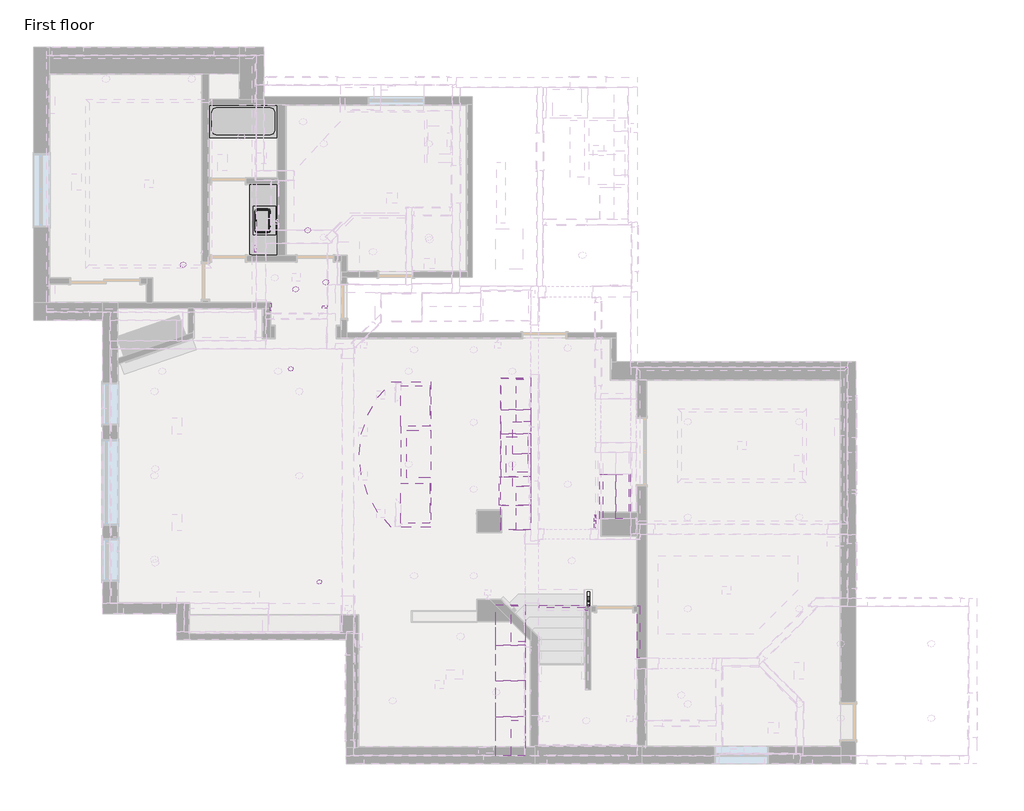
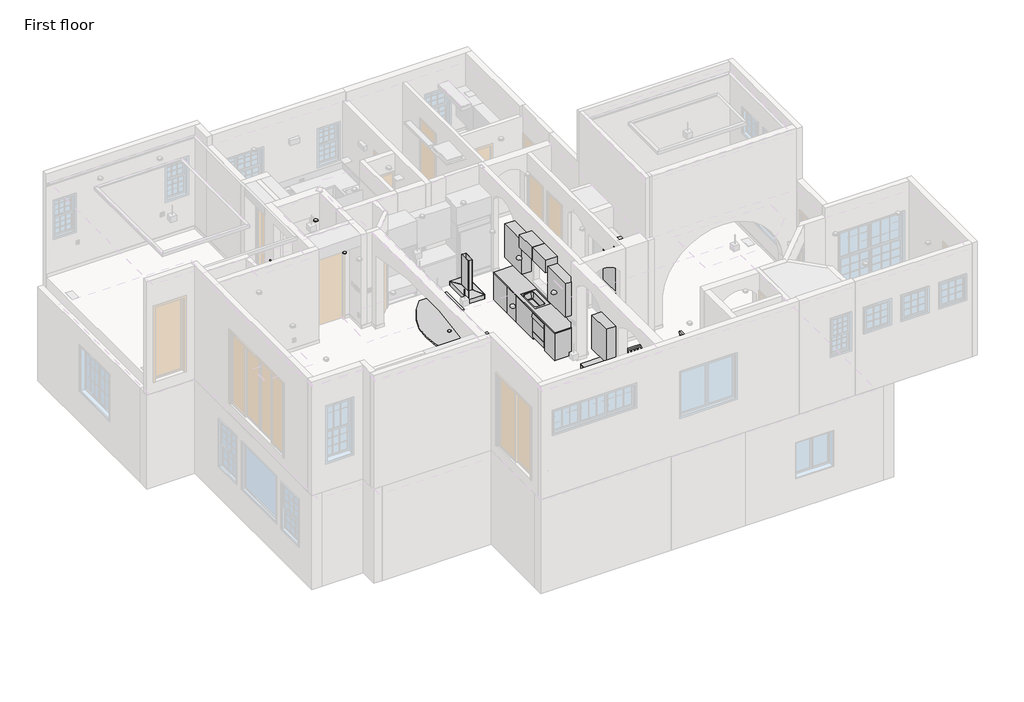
# One storey, part 11 of 14: 25 furniture elements, 14 proxies, 4 flow terminals, 3 railings.
"""IFC4 building model written with IfcOpenShell, lengths in millimetres."""

from ifc_helpers import new_model, si_unit, point, frame, frame_2d, origin, origin_with_axes, place, context, project, spatial, polyline, circle_curve, ellipse_curve, trimmed, segment, composite_curve, outline, extrude, faceted_brep, transform, mapped, element, save
from ifc_brep_helpers import plane_surface, cylinder_surface, revolved_surface, advanced_brep
from components import c_kitchen_hood_c_kitchen_hood_2_cbf3ad54, specialty_equipment_1_specialty_equipment_1_22bf80cc, specialty_equipment_1_specialty_equipment_1_149a46b1, specialty_equipment_1_specialty_equipment_1_f51d1b89, specialty_equipment_1_specialty_equipment_1_b0d764d4, specialty_equipment_1_specialty_equipment_1_d450ff97, specialty_equipment_1_specialty_equipment_1_6d52e2c9, specialty_equipment_1_specialty_equipment_1_1134e4f5, specialty_equipment_4_specialty_equipment_4_47f9b433, specialty_equipment_4_specialty_equipment_4_565449f1, c_bathtub_c_bathtub_2_3dac6746, flow_terminal_c128aac0, c_kitchen_sink_single_c_kitchen_sink_single_3_226f43ff, c_cabinet_module_double_door_c_cabinet_module_double_door_e2b38130, c_cabinet_module_double_door_c_cabinet_module_double_door_f6c91c58, c_cabinet_module_double_door_c_cabinet_module_double_door_7a8d8605, c_cabinet_module_double_door_c_cabinet_module_double_door_ce933aa9, c_cabinet_module_double_door_c_cabinet_module_double_door_18dcfad4, c_cabinet_module_double_door_c_cabinet_module_double_door_7b111447, c_cabinet_module_double_door_c_cabinet_module_double_door_6c25a611, c_cabinet_module_double_door_c_cabinet_module_double_door_e15ac9e6, c_cabinet_module_double_door_c_cabinet_module_double_door_cadfa840, c_cabinet_module_double_door_c_cabinet_module_double_door_635d7a1f, c_cabinet_module_double_door_c_cabinet_module_double_door_c4f58a1e, c_cabinet_single_module_c_cabinet_single_module_72188083, c_cabinet_single_module_c_cabinet_single_module_748682a7, c_casework_empty_c_casework_empty_a727a4a9, c_counter_top_linear_without_skirting_c_counter_top_linear_fa51e166, c_counter_top_curved_c_counter_top_curved_6a2d19db

model = new_model("IFC4")

# Units and contexts
model_context = context("Model", 3, world=origin())
ifc_project = project(units=[si_unit("LENGTHUNIT", "METRE", prefix="MILLI")], contexts=[model_context])

# Site, building, storey
site = spatial("IfcSite", under=ifc_project)
building = spatial("IfcBuilding", under=site)
storey = spatial("IfcBuildingStorey", under=building, Name="First floor", Elevation=0.0)

# Proxies
placement = place(None, origin())
c_kitchen_hood_c_kitchen_hood_2_shape = c_kitchen_hood_c_kitchen_hood_2_cbf3ad54(model_context)
element("IfcBuildingElementProxy", 1, Name="C_Kitchen Hood : C_Kitchen Hood 2", ObjectType="C_Kitchen Hood : C_Kitchen Hood 2", at=placement, inside=storey, context=model_context, shape_type="MappedRepresentation", body=[
    mapped(c_kitchen_hood_c_kitchen_hood_2_shape, transform((1552.2031284, 6600.8036682, 5130.8), x_axis=(0.0, 1.0, 0.0), y_axis=(-1.0, 0.0, 0.0), z_axis=(0.0, 0.0, 1.0))),
])
specialty_equipment_1_specialty_equipment_1_shape = specialty_equipment_1_specialty_equipment_1_22bf80cc(model_context)
element("IfcBuildingElementProxy", 2, Name="Specialty Equipment 1 : Specialty Equipment 1", ObjectType="Specialty Equipment 1 : Specialty Equipment 1", at=placement, inside=storey, context=model_context, shape_type="MappedRepresentation", body=[
    mapped(specialty_equipment_1_specialty_equipment_1_shape, transform((0.0, 0.0, 0.0), x_axis=(1.0, 0.0, 0.0), y_axis=(0.0, 1.0, 0.0), z_axis=(0.0, 0.0, 1.0))),
])
specialty_equipment_1_specialty_equipment_1_2_shape = specialty_equipment_1_specialty_equipment_1_149a46b1(model_context)
element("IfcBuildingElementProxy", 3, Name="Specialty Equipment_1 : Specialty Equipment_1", ObjectType="Specialty Equipment_1 : Specialty Equipment_1", at=placement, inside=storey, context=model_context, shape_type="MappedRepresentation", body=[
    mapped(specialty_equipment_1_specialty_equipment_1_2_shape, transform((-1625.6, 9740.9, 1295.4), x_axis=(0.0, 1.0, 0.0), y_axis=(-1.0, 0.0, 0.0), z_axis=(0.0, 0.0, 1.0))),
])
specialty_equipment_1_specialty_equipment_1_3_shape = specialty_equipment_1_specialty_equipment_1_f51d1b89(model_context)
element("IfcBuildingElementProxy", 4, Name="Specialty Equipment_1 : Specialty Equipment_1", ObjectType="Specialty Equipment_1 : Specialty Equipment_1", at=placement, inside=storey, context=model_context, shape_type="MappedRepresentation", body=[
    mapped(specialty_equipment_1_specialty_equipment_1_3_shape, transform((-508.0, 9740.9, 2552.7), x_axis=(0.0, 1.0, 0.0), y_axis=(-1.0, 0.0, 0.0), z_axis=(0.0, 0.0, 1.0))),
])
specialty_equipment_1_specialty_equipment_1_4_shape = specialty_equipment_1_specialty_equipment_1_b0d764d4(model_context)
element("IfcBuildingElementProxy", 5, Name="Specialty Equipment_1 : Specialty Equipment_1", ObjectType="Specialty Equipment_1 : Specialty Equipment_1", at=placement, inside=storey, context=model_context, shape_type="MappedRepresentation", body=[
    mapped(specialty_equipment_1_specialty_equipment_1_4_shape, transform((5295.9, 5111.6447939, 4521.2), x_axis=(0.0, 1.0, 0.0), y_axis=(-1.0, 0.0, 0.0), z_axis=(0.0, 0.0, 1.0))),
])
specialty_equipment_1_specialty_equipment_1_5_shape = specialty_equipment_1_specialty_equipment_1_d450ff97(model_context)
element("IfcBuildingElementProxy", 6, Name="Specialty Equipment_1 : Specialty Equipment_1", ObjectType="Specialty Equipment_1 : Specialty Equipment_1", at=placement, inside=storey, context=model_context, shape_type="MappedRepresentation", body=[
    mapped(specialty_equipment_1_specialty_equipment_1_5_shape, transform((5295.9, 5232.2947939, 5816.6), x_axis=(0.0, 1.0, 0.0), y_axis=(-1.0, 0.0, 0.0), z_axis=(0.0, 0.0, 1.0))),
])
specialty_equipment_1_specialty_equipment_1_6_shape = specialty_equipment_1_specialty_equipment_1_6d52e2c9(model_context)
element("IfcBuildingElementProxy", 7, Name="Specialty Equipment_1 : Specialty Equipment_1", ObjectType="Specialty Equipment_1 : Specialty Equipment_1", at=placement, inside=storey, context=model_context, shape_type="MappedRepresentation", body=[
    mapped(specialty_equipment_1_specialty_equipment_1_6_shape, transform((5308.6, 5283.0947939, 6019.8), x_axis=(0.0, 1.0, 0.0), y_axis=(-1.0, 0.0, 0.0), z_axis=(0.0, 0.0, 1.0))),
])
specialty_equipment_1_specialty_equipment_1_7_shape = specialty_equipment_1_specialty_equipment_1_1134e4f5(model_context)
element("IfcBuildingElementProxy", 8, Name="Specialty Equipment_1 : Specialty Equipment_1", ObjectType="Specialty Equipment_1 : Specialty Equipment_1", at=placement, inside=storey, context=model_context, shape_type="MappedRepresentation", body=[
    mapped(specialty_equipment_1_specialty_equipment_1_7_shape, transform((-1949.45, 10985.5, 4572.0), x_axis=(0.0, 1.0, 0.0), y_axis=(-1.0, 0.0, 0.0), z_axis=(0.0, 0.0, 1.0))),
])
specialty_equipment_4_specialty_equipment_4_shape = specialty_equipment_4_specialty_equipment_4_47f9b433(model_context)
element("IfcBuildingElementProxy", 9, Name="Specialty Equipment_4 : Specialty Equipment_4", ObjectType="Specialty Equipment_4 : Specialty Equipment_4", at=placement, inside=storey, context=model_context, shape_type="MappedRepresentation", body=[
    mapped(specialty_equipment_4_specialty_equipment_4_shape, transform((-431.8, 10267.95, 2565.4), x_axis=(1.0, 0.0, 0.0), y_axis=(0.0, 1.0, 0.0), z_axis=(0.0, 0.0, 1.0))),
])
element("IfcBuildingElementProxy", 10, Name="Specialty Equipment_4 : Specialty Equipment_4", ObjectType="Specialty Equipment_4 : Specialty Equipment_4", at=placement, inside=storey, context=model_context, shape_type="MappedRepresentation", body=[
    mapped(specialty_equipment_4_specialty_equipment_4_shape, transform((-3479.8, 10642.6, 2565.4), x_axis=(1.0, 0.0, 0.0), y_axis=(0.0, 1.0, 0.0), z_axis=(0.0, 0.0, 1.0))),
])
element("IfcBuildingElementProxy", 11, Name="Specialty Equipment_4 : Specialty Equipment_4", ObjectType="Specialty Equipment_4 : Specialty Equipment_4", at=placement, inside=storey, context=model_context, shape_type="MappedRepresentation", body=[
    mapped(specialty_equipment_4_specialty_equipment_4_shape, transform((-819.15, 11379.2, 2565.4), x_axis=(1.0, 0.0, 0.0), y_axis=(0.0, 1.0, 0.0), z_axis=(0.0, 0.0, 1.0))),
])
element("IfcBuildingElementProxy", 12, Name="Specialty Equipment_4 : Specialty Equipment_4", ObjectType="Specialty Equipment_4 : Specialty Equipment_4", at=placement, inside=storey, context=model_context, shape_type="MappedRepresentation", body=[
    mapped(specialty_equipment_4_specialty_equipment_4_shape, transform((-1079.5, 10121.9, 6248.4), x_axis=(1.0, 0.0, 0.0), y_axis=(0.0, 1.0, 0.0), z_axis=(0.0, 0.0, 1.0))),
])
specialty_equipment_4_specialty_equipment_4_2_shape = specialty_equipment_4_specialty_equipment_4_565449f1(model_context)
element("IfcBuildingElementProxy", 13, Name="Specialty Equipment_4 : Specialty Equipment_4", ObjectType="Specialty Equipment_4 : Specialty Equipment_4", at=placement, inside=storey, context=model_context, shape_type="MappedRepresentation", body=[
    mapped(specialty_equipment_4_specialty_equipment_4_2_shape, transform((-571.5, 3873.5, 6261.1), x_axis=(1.0, 0.0, 0.0), y_axis=(0.0, 1.0, 0.0), z_axis=(0.0, 0.0, 1.0))),
])
element("IfcBuildingElementProxy", 14, Name="Specialty Equipment_4 : Specialty Equipment_4", ObjectType="Specialty Equipment_4 : Specialty Equipment_4", at=placement, inside=storey, context=model_context, shape_type="MappedRepresentation", body=[
    mapped(specialty_equipment_4_specialty_equipment_4_2_shape, transform((-1181.1, 8420.1, 6261.1), x_axis=(1.0, 0.0, 0.0), y_axis=(0.0, 1.0, 0.0), z_axis=(0.0, 0.0, 1.0))),
])

# Flow terminals
c_bathtub_c_bathtub_2_shape = c_bathtub_c_bathtub_2_3dac6746(model_context)
element("IfcFlowTerminal", 15, ObjectType="C_Bathtub : C_Bathtub 2", at=placement, inside=storey, context=model_context, shape_type="MappedRepresentation", body=[
    mapped(c_bathtub_c_bathtub_2_shape, transform((-1473.2, 13347.7, 0.0), x_axis=(0.0, 1.0, 0.0), y_axis=(-1.0, 0.0, 0.0), z_axis=(0.0, 0.0, 1.0))),
])
flow_terminal_shape = flow_terminal_c128aac0(model_context)
element("IfcFlowTerminal", 16, ObjectType="C_Dishwasher : 24\"x25 1/4\"", at=placement, inside=storey, context=model_context, shape_type="MappedRepresentation", body=[
    mapped(flow_terminal_shape, transform((3937.0, 5818.0822939, 3251.2), x_axis=(-1.0, 0.0, 0.0), y_axis=(0.0, -1.0, 0.0), z_axis=(0.0, 0.0, 1.0))),
])
element("IfcFlowTerminal", 17, ObjectType="C_Kitchen Sink Single : C_Kitchen Sink Single", at=placement, inside=storey, context=model_context, shape_type="SolidModel", body=[
    extrude(outline(polyline([(-1504.95, 11893.55), (-1504.95, 11283.95), (-1987.55, 11283.95), (-1987.55, 11893.55), (-1504.95, 11893.55)]), holes=[composite_curve([segment(trimmed(circle_curve(frame_2d((-1670.05, 11785.6)), 50.8), [point((-1619.25, 11785.6))], [point((-1670.05, 11836.4))], True, "CARTESIAN"), True, "CONTINUOUS"), segment(polyline([(-1670.05, 11836.4), (-1898.65, 11836.4)]), True, "CONTINUOUS"), segment(trimmed(circle_curve(frame_2d((-1898.65, 11785.6)), 50.8), [point((-1898.65, 11836.4))], [point((-1949.45, 11785.6))], True, "CARTESIAN"), True, "CONTINUOUS"), segment(polyline([(-1949.45, 11785.6), (-1949.45, 11372.85)]), True, "CONTINUOUS"), segment(trimmed(circle_curve(frame_2d((-1898.65, 11372.85)), 50.8), [point((-1949.45, 11372.85))], [point((-1898.65, 11322.05))], True, "CARTESIAN"), True, "CONTINUOUS"), segment(polyline([(-1898.65, 11322.05), (-1670.05, 11322.05)]), True, "CONTINUOUS"), segment(trimmed(circle_curve(frame_2d((-1670.05, 11372.85)), 50.8), [point((-1670.05, 11322.05))], [point((-1619.25, 11372.85))], True, "CARTESIAN"), True, "CONTINUOUS"), segment(polyline([(-1619.25, 11372.85), (-1619.25, 11785.6)]), True, "CONTINUOUS")], self_intersect=False)]), frame((0.0, 0.0, 825.5), z_axis=(0.0, 0.0, 1.0), x_axis=(1.0, 0.0, 0.0)), (0.0, 0.0, 1.0), 12.7),
    advanced_brep(
    [(-1670.05, 11800.8884182, 619.125), (-1898.65, 11800.8884182, 619.125), (-1913.9384182, 11785.6, 619.125), (-1913.9384182, 11372.85, 619.125), (-1898.65, 11357.5615818, 619.125), (-1670.05, 11357.5615818, 619.125), (-1654.7615818, 11372.85, 619.125), (-1654.7615818, 11785.6, 619.125), (-1670.05, 11315.7, 609.6), (-1898.65, 11315.7, 609.6), (-1955.8, 11372.85, 609.6), (-1955.8, 11785.6, 609.6), (-1898.65, 11842.75, 609.6), (-1670.05, 11842.75, 609.6), (-1612.9, 11785.6, 609.6), (-1612.9, 11372.85, 609.6), (-1670.05, 11842.75, 825.5), (-1612.9, 11785.6, 825.5), (-1635.7840728, 11785.6, 636.5146831), (-1670.05, 11819.8659272, 636.5146831), (-1619.25, 11785.6, 825.5), (-1670.05, 11836.4, 825.5), (-1898.65, 11842.75, 825.5), (-1898.65, 11819.8659272, 636.5146831), (-1898.65, 11836.4, 825.5), (-1955.8, 11785.6, 825.5), (-1932.9159272, 11785.6, 636.5146831), (-1949.45, 11785.6, 825.5), (-1955.8, 11372.85, 825.5), (-1932.9159272, 11372.85, 636.5146831), (-1949.45, 11372.85, 825.5), (-1898.65, 11315.7, 825.5), (-1898.65, 11338.5840728, 636.5146831), (-1898.65, 11322.05, 825.5), (-1670.05, 11315.7, 825.5), (-1670.05, 11338.5840728, 636.5146831), (-1670.05, 11322.05, 825.5), (-1612.9, 11372.85, 825.5), (-1635.7840728, 11372.85, 636.5146831), (-1619.25, 11372.85, 825.5)],
    [
        (0, 1),
        (1, 2, circle_curve(frame((-1898.65, 11785.6, 619.125), z_axis=(0.0, 0.0, 1.0), x_axis=(0.0, 1.0, 0.0)), 15.2884182)),
        (2, 3),
        (3, 4, circle_curve(frame((-1898.65, 11372.85, 619.125), z_axis=(0.0, 0.0, 1.0), x_axis=(-1.0, 0.0, 0.0)), 15.2884182)),
        (4, 5),
        (5, 6, circle_curve(frame((-1670.05, 11372.85, 619.125), z_axis=(0.0, 0.0, 1.0), x_axis=(0.0, -1.0, 0.0)), 15.2884182)),
        (6, 7),
        (7, 0, circle_curve(frame((-1670.05, 11785.6, 619.125), z_axis=(0.0, 0.0, 1.0), x_axis=(1.0, 0.0, 0.0)), 15.2884182)),
        (8, 9),
        (9, 10, circle_curve(frame((-1898.65, 11372.85, 609.6), z_axis=(0.0, 0.0, -1.0), x_axis=(-1.0, 0.0, 0.0)), 57.15)),
        (10, 11),
        (11, 12, circle_curve(frame((-1898.65, 11785.6, 609.6), z_axis=(0.0, 0.0, -1.0), x_axis=(0.0, 1.0, 0.0)), 57.15)),
        (12, 13),
        (13, 14, circle_curve(frame((-1670.05, 11785.6, 609.6), z_axis=(0.0, 0.0, -1.0), x_axis=(1.0, 0.0, 0.0)), 57.15)),
        (14, 15),
        (15, 8, circle_curve(frame((-1670.05, 11372.85, 609.6), z_axis=(0.0, 0.0, -1.0), x_axis=(0.0, -1.0, 0.0)), 57.15)),
        (13, 16),
        (16, 17, circle_curve(frame((-1670.05, 11785.6, 825.5), z_axis=(0.0, 0.0, -1.0), x_axis=(1.0, 0.0, 0.0)), 57.15)),
        (17, 14),
        (7, 18, circle_curve(frame((-1654.7615818, 11785.6, 638.175), z_axis=(0.0, -1.0, 0.0), x_axis=(1.0, 0.0, 0.0)), 19.05)),
        (18, 19, circle_curve(frame((-1670.05, 11785.6, 636.5146831), z_axis=(0.0, 0.0, 1.0), x_axis=(1.0, 0.0, 0.0)), 34.2659272)),
        (19, 0, circle_curve(frame((-1670.05, 11800.8884182, 638.175), z_axis=(-1.0, 0.0, 0.0), x_axis=(0.0, 1.0, 0.0)), 19.05)),
        (18, 20),
        (20, 21, circle_curve(frame((-1670.05, 11785.6, 825.5), z_axis=(0.0, 0.0, 1.0), x_axis=(1.0, 0.0, 0.0)), 50.8)),
        (21, 19),
        (16, 21),
        (20, 17),
        (12, 22),
        (22, 16),
        (19, 23),
        (23, 1, circle_curve(frame((-1898.65, 11800.8884182, 638.175), z_axis=(-1.0, 0.0, 0.0), x_axis=(0.0, 1.0, 0.0)), 19.05)),
        (21, 24),
        (24, 23),
        (22, 24),
        (11, 25),
        (25, 22, circle_curve(frame((-1898.65, 11785.6, 825.5), z_axis=(0.0, 0.0, -1.0), x_axis=(0.0, 1.0, 0.0)), 57.15)),
        (23, 26, circle_curve(frame((-1898.65, 11785.6, 636.5146831), z_axis=(0.0, 0.0, 1.0), x_axis=(0.0, 1.0, 0.0)), 34.2659272)),
        (26, 2, circle_curve(frame((-1913.9384182, 11785.6, 638.175), z_axis=(0.0, -1.0, 0.0), x_axis=(-1.0, 0.0, 0.0)), 19.05)),
        (24, 27, circle_curve(frame((-1898.65, 11785.6, 825.5), z_axis=(0.0, 0.0, 1.0), x_axis=(0.0, 1.0, 0.0)), 50.8)),
        (27, 26),
        (25, 27),
        (10, 28),
        (28, 25),
        (26, 29),
        (29, 3, circle_curve(frame((-1913.9384182, 11372.85, 638.175), z_axis=(0.0, -1.0, 0.0), x_axis=(-1.0, 0.0, 0.0)), 19.05)),
        (27, 30),
        (30, 29),
        (28, 30),
        (9, 31),
        (31, 28, circle_curve(frame((-1898.65, 11372.85, 825.5), z_axis=(0.0, 0.0, -1.0), x_axis=(-1.0, 0.0, 0.0)), 57.15)),
        (29, 32, circle_curve(frame((-1898.65, 11372.85, 636.5146831), z_axis=(0.0, 0.0, 1.0), x_axis=(-1.0, 0.0, 0.0)), 34.2659272)),
        (32, 4, circle_curve(frame((-1898.65, 11357.5615818, 638.175), z_axis=(1.0, 0.0, 0.0), x_axis=(0.0, -1.0, 0.0)), 19.05)),
        (30, 33, circle_curve(frame((-1898.65, 11372.85, 825.5), z_axis=(0.0, 0.0, 1.0), x_axis=(-1.0, 0.0, 0.0)), 50.8)),
        (33, 32),
        (31, 33),
        (8, 34),
        (34, 31),
        (32, 35),
        (35, 5, circle_curve(frame((-1670.05, 11357.5615818, 638.175), z_axis=(1.0, 0.0, 0.0), x_axis=(0.0, -1.0, 0.0)), 19.05)),
        (33, 36),
        (36, 35),
        (34, 36),
        (15, 37),
        (37, 34, circle_curve(frame((-1670.05, 11372.85, 825.5), z_axis=(0.0, 0.0, -1.0), x_axis=(0.0, -1.0, 0.0)), 57.15)),
        (35, 38, circle_curve(frame((-1670.05, 11372.85, 636.5146831), z_axis=(0.0, 0.0, 1.0), x_axis=(0.0, -1.0, 0.0)), 34.2659272)),
        (38, 6, circle_curve(frame((-1654.7615818, 11372.85, 638.175), z_axis=(0.0, 1.0, 0.0), x_axis=(1.0, 0.0, 0.0)), 19.05)),
        (36, 39, circle_curve(frame((-1670.05, 11372.85, 825.5), z_axis=(0.0, 0.0, 1.0), x_axis=(0.0, -1.0, 0.0)), 50.8)),
        (39, 38),
        (37, 39),
        (17, 37),
        (38, 18),
        (39, 20),
    ],
    [
        plane_surface(frame((-1657.35, 11372.85, 619.125), z_axis=(0.0, 0.0, 1.0), x_axis=(0.0, -1.0, 0.0))),
        plane_surface(frame((-1657.35, 11372.85, 609.6), z_axis=(0.0, 0.0, -1.0), x_axis=(0.0, 1.0, 0.0))),
        cylinder_surface(frame((-1670.05, 11785.6, 825.5), z_axis=(0.0, 0.0, -1.0), x_axis=(1.0, 0.0, 0.0)), 57.15),
        revolved_surface(trimmed(ellipse_curve(frame((-1654.7615818, 11785.6, 638.175), z_axis=(0.0, -1.0, 0.0), x_axis=(1.0, 0.0, 0.0)), 19.05, 19.05), [point((-1654.7615818, 11785.6, 619.125))], [point((-1635.7840728, 11785.6, 636.5146831))], True, "CARTESIAN"), (-1670.05, 11785.6, 825.5), (0.0, 0.0, -1.0)),
        revolved_surface(polyline([(-1635.7840728, 11785.6, 636.5146831), (-1619.25, 11785.6, 825.5)]), (-1670.05, 11785.6, 825.5), (0.0, 0.0, -1.0)),
        plane_surface(frame((-1670.05, 11785.6, 825.5), z_axis=(0.0, 0.0, 1.0), x_axis=(1.0, 0.0, 0.0))),
        plane_surface(frame((-1670.05, 11842.75, 825.5), z_axis=(0.0, 1.0, 0.0), x_axis=(-1.0, 0.0, 0.0))),
        revolved_surface(polyline([(-1898.65, 11819.9384182, 638.175), (-1670.05, 11819.9384182, 638.175)]), (-1670.05, 11800.8884182, 638.175), (-1.0, 0.0, 0.0)),
        plane_surface(frame((-1670.05, 11819.8659272, 636.5146831), z_axis=(0.0, -0.996194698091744, 0.08715574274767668), x_axis=(-1.0, 0.0, 0.0))),
        plane_surface(frame((-1670.05, 11836.4, 825.5), z_axis=(0.0, 0.0, 1.0), x_axis=(-1.0, 0.0, 0.0))),
        cylinder_surface(frame((-1898.65, 11785.6, 825.5), z_axis=(0.0, 0.0, -1.0), x_axis=(0.0, 1.0, 0.0)), 57.15),
        revolved_surface(trimmed(ellipse_curve(frame((-1898.65, 11800.8884182, 638.175), z_axis=(1.0, 0.0, 0.0), x_axis=(0.0, 1.0, 0.0)), 19.05, 19.05), [point((-1898.65, 11800.8884182, 619.125))], [point((-1898.65, 11819.8659272, 636.5146831))], True, "CARTESIAN"), (-1898.65, 11785.6, 825.5), (0.0, 0.0, -1.0)),
        revolved_surface(polyline([(-1898.65, 11819.8659272, 636.5146831), (-1898.65, 11836.4, 825.5)]), (-1898.65, 11785.6, 825.5), (0.0, 0.0, -1.0)),
        plane_surface(frame((-1898.65, 11785.6, 825.5), z_axis=(0.0, 0.0, 1.0), x_axis=(0.0, 1.0, 0.0))),
        plane_surface(frame((-1955.8, 11785.6, 825.5), z_axis=(-1.0, 0.0, 0.0), x_axis=(0.0, -1.0, 0.0))),
        revolved_surface(polyline([(-1932.9884181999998, 11372.85, 638.175), (-1932.9884181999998, 11785.6, 638.175)]), (-1913.9384182, 11785.6, 638.175), (0.0, -1.0, 0.0)),
        plane_surface(frame((-1932.9159272, 11785.6, 636.5146831), z_axis=(0.996194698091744, 0.0, 0.08715574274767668), x_axis=(0.0, -1.0, 0.0))),
        plane_surface(frame((-1949.45, 11785.6, 825.5), z_axis=(0.0, 0.0, 1.0), x_axis=(0.0, -1.0, 0.0))),
        cylinder_surface(frame((-1898.65, 11372.85, 825.5), z_axis=(0.0, 0.0, -1.0), x_axis=(-1.0, 0.0, 0.0)), 57.15),
        revolved_surface(trimmed(ellipse_curve(frame((-1913.9384182, 11372.85, 638.175), z_axis=(0.0, 1.0, 0.0), x_axis=(-1.0, 0.0, 0.0)), 19.05, 19.05), [point((-1913.9384182, 11372.85, 619.125))], [point((-1932.9159272, 11372.85, 636.5146831))], True, "CARTESIAN"), (-1898.65, 11372.85, 825.5), (0.0, 0.0, -1.0)),
        revolved_surface(polyline([(-1932.9159272, 11372.85, 636.5146831), (-1949.45, 11372.85, 825.5)]), (-1898.65, 11372.85, 825.5), (0.0, 0.0, -1.0)),
        plane_surface(frame((-1898.65, 11372.85, 825.5), z_axis=(0.0, 0.0, 1.0), x_axis=(-1.0, 0.0, 0.0))),
        plane_surface(frame((-1898.65, 11315.7, 825.5), z_axis=(0.0, -1.0, 0.0), x_axis=(1.0, 0.0, 0.0))),
        revolved_surface(polyline([(-1670.05, 11338.511581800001, 638.175), (-1898.65, 11338.511581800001, 638.175)]), (-1898.65, 11357.5615818, 638.175), (1.0, 0.0, 0.0)),
        plane_surface(frame((-1898.65, 11338.5840728, 636.5146831), z_axis=(0.0, 0.996194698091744, 0.08715574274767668), x_axis=(1.0, 0.0, 0.0))),
        plane_surface(frame((-1898.65, 11322.05, 825.5), z_axis=(0.0, 0.0, 1.0), x_axis=(1.0, 0.0, 0.0))),
        cylinder_surface(frame((-1670.05, 11372.85, 825.5), z_axis=(0.0, 0.0, -1.0), x_axis=(0.0, -1.0, 0.0)), 57.15),
        revolved_surface(trimmed(ellipse_curve(frame((-1670.05, 11357.5615818, 638.175), z_axis=(-1.0, 0.0, 0.0), x_axis=(0.0, -1.0, 0.0)), 19.05, 19.05), [point((-1670.05, 11357.5615818, 619.125))], [point((-1670.05, 11338.5840728, 636.5146831))], True, "CARTESIAN"), (-1670.05, 11372.85, 825.5), (0.0, 0.0, -1.0)),
        revolved_surface(polyline([(-1670.05, 11338.5840728, 636.5146831), (-1670.05, 11322.05, 825.5)]), (-1670.05, 11372.85, 825.5), (0.0, 0.0, -1.0)),
        plane_surface(frame((-1670.05, 11372.85, 825.5), z_axis=(0.0, 0.0, 1.0), x_axis=(0.0, -1.0, 0.0))),
        plane_surface(frame((-1612.9, 11372.85, 825.5), z_axis=(1.0, 0.0, 0.0), x_axis=(0.0, 1.0, 0.0))),
        revolved_surface(polyline([(-1635.7115818, 11785.6, 638.175), (-1635.7115818, 11372.85, 638.175)]), (-1654.7615818, 11372.85, 638.175), (0.0, 1.0, 0.0)),
        plane_surface(frame((-1635.7840728, 11372.85, 636.5146831), z_axis=(-0.996194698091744, 0.0, 0.08715574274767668), x_axis=(0.0, 1.0, 0.0))),
        plane_surface(frame((-1619.25, 11372.85, 825.5), z_axis=(0.0, 0.0, 1.0), x_axis=(0.0, 1.0, 0.0))),
    ],
    [
        (0, [[1, 2, 3, 4, 5, 6, 7, 8]]),
        (1, [[9, 10, 11, 12, 13, 14, 15, 16]]),
        (2, [[17, 18, 19, -14]]),
        (3, [[20, 21, 22, -8]]),
        (4, [[23, 24, 25, -21]]),
        (5, [[26, -24, 27, -18]]),
        (6, [[-13, 28, 29, -17]]),
        (7, [[30, 31, -1, -22]]),
        (8, [[32, 33, -30, -25]]),
        (9, [[-29, 34, -32, -26]]),
        (10, [[-12, 35, 36, -28]]),
        (11, [[37, 38, -2, -31]]),
        (12, [[39, 40, -37, -33]]),
        (13, [[-36, 41, -39, -34]]),
        (14, [[-11, 42, 43, -35]]),
        (15, [[44, 45, -3, -38]]),
        (16, [[46, 47, -44, -40]]),
        (17, [[-43, 48, -46, -41]]),
        (18, [[-10, 49, 50, -42]]),
        (19, [[51, 52, -4, -45]]),
        (20, [[53, 54, -51, -47]]),
        (21, [[-50, 55, -53, -48]]),
        (22, [[-9, 56, 57, -49]]),
        (23, [[58, 59, -5, -52]]),
        (24, [[60, 61, -58, -54]]),
        (25, [[-57, 62, -60, -55]]),
        (26, [[-16, 63, 64, -56]]),
        (27, [[65, 66, -6, -59]]),
        (28, [[67, 68, -65, -61]]),
        (29, [[-64, 69, -67, -62]]),
        (30, [[70, -63, -15, -19]]),
        (31, [[-7, -66, 71, -20]]),
        (32, [[-71, -68, 72, -23]]),
        (33, [[-72, -69, -70, -27]]),
    ],
),
])
c_kitchen_sink_single_c_kitchen_sink_single_3_shape = c_kitchen_sink_single_c_kitchen_sink_single_3_226f43ff(model_context)
element("IfcFlowTerminal", 18, ObjectType="C_Kitchen Sink Single : C_Kitchen Sink Single 3", at=placement, inside=storey, context=model_context, shape_type="MappedRepresentation", body=[
    mapped(c_kitchen_sink_single_c_kitchen_sink_single_3_shape, transform((3642.5545989, 6263.9840344, 4152.9), x_axis=(0.0, -1.0, 0.0), y_axis=(1.0, 0.0, 0.0), z_axis=(0.0, 0.0, 1.0))),
])

# Furniture
element("IfcFurniture", 19, ObjectType="C_Cabinet Module Double Door : C_Cabinet Module Double Door", at=placement, inside=storey, context=model_context, shape_type="Brep", body=[
    faceted_brep([(3937.0, 7035.6947939, 4127.5), (3308.35, 7035.6947939, 4127.5), (3308.35, 6122.8822939, 4127.5), (3937.0, 6122.8822939, 4127.5), (3416.3, 6210.1947939, 4127.5), (3416.3, 6972.1947939, 4127.5), (3873.5, 6972.1947939, 4127.5), (3873.5, 6210.1947939, 4127.5), (3937.0, 7035.6947939, 3251.2), (3937.0, 6122.8822939, 3251.2), (3308.35, 6122.8822939, 3251.2), (3308.35, 7035.6947939, 3251.2), (3416.3, 6210.1947939, 3937.0), (3873.5, 6210.1947939, 3937.0), (3873.5, 6972.1947939, 3937.0), (3416.3, 6972.1947939, 3937.0)], [[[0, 1, 2, 3], [4, 5, 6, 7]], [[8, 9, 10, 11]], [[0, 3, 9, 8]], [[3, 2, 10, 9]], [[2, 1, 11, 10]], [[1, 0, 8, 11]], [[12, 13, 14, 15]], [[12, 15, 5, 4]], [[15, 14, 6, 5]], [[14, 13, 7, 6]], [[13, 12, 4, 7]]]),
])
element("IfcFurniture", 20, ObjectType="C_Cabinet Module Double Door : C_Cabinet Module Double Door", at=placement, inside=storey, context=model_context, shape_type="Brep", body=[
    faceted_brep([(-2057.4, 11836.4, 800.1), (-2057.4, 10833.1, 800.1), (-1460.5, 10833.1, 800.1), (-1460.5, 11836.4, 800.1), (-1504.95, 11836.4, 800.1), (-1504.95, 11283.95, 800.1), (-1987.55, 11283.95, 800.1), (-1987.55, 11836.4, 800.1), (-1460.5, 11836.4, 0.0), (-1460.5, 10833.1, 0.0), (-2057.4, 10833.1, 0.0), (-2057.4, 11836.4, 0.0), (-1987.55, 11836.4, 609.6), (-1504.95, 11836.4, 609.6), (-1987.55, 11283.95, 609.6), (-1504.95, 11283.95, 609.6)], [[[0, 1, 2, 3, 4, 5, 6, 7]], [[8, 9, 10, 11]], [[3, 2, 9, 8]], [[2, 1, 10, 9]], [[1, 0, 11, 10]], [[8, 11, 0, 7, 12, 13, 4, 3]], [[14, 15, 13, 12]], [[14, 12, 7, 6]], [[15, 14, 6, 5]], [[13, 15, 5, 4]]]),
])
c_cabinet_module_double_door_c_cabinet_module_double_door_shape = c_cabinet_module_double_door_c_cabinet_module_double_door_e2b38130(model_context)
element("IfcFurniture", 21, ObjectType="C_Cabinet Module Double Door : C_Cabinet Module Double Door", at=placement, inside=storey, context=model_context, shape_type="MappedRepresentation", body=[
    mapped(c_cabinet_module_double_door_c_cabinet_module_double_door_shape, transform((3822.7, 546.1, 4546.6), x_axis=(0.0, 1.0, 0.0), y_axis=(-1.0, 0.0, 0.0), z_axis=(0.0, 0.0, 1.0))),
])
element("IfcFurniture", 22, ObjectType="C_Cabinet Module Double Door : C_Cabinet Module Double Door", at=placement, inside=storey, context=model_context, shape_type="MappedRepresentation", body=[
    mapped(c_cabinet_module_double_door_c_cabinet_module_double_door_shape, transform((3822.7, 2984.3947939, 4546.6), x_axis=(0.0, 1.0, 0.0), y_axis=(-1.0, 0.0, 0.0), z_axis=(0.0, 0.0, 1.0))),
])
c_cabinet_module_double_door_c_cabinet_module_double_door_2_shape = c_cabinet_module_double_door_c_cabinet_module_double_door_f6c91c58(model_context)
element("IfcFurniture", 23, ObjectType="C_Cabinet Module Double Door : C_Cabinet Module Double Door", at=placement, inside=storey, context=model_context, shape_type="MappedRepresentation", body=[
    mapped(c_cabinet_module_double_door_c_cabinet_module_double_door_2_shape, transform((3937.0, 5451.3697939, 4546.6), x_axis=(0.0, 1.0, 0.0), y_axis=(-1.0, 0.0, 0.0), z_axis=(0.0, 0.0, 1.0))),
])
c_cabinet_module_double_door_c_cabinet_module_double_door_3_shape = c_cabinet_module_double_door_c_cabinet_module_double_door_7a8d8605(model_context)
element("IfcFurniture", 24, ObjectType="C_Cabinet Module Double Door : C_Cabinet Module Double Door", at=placement, inside=storey, context=model_context, shape_type="MappedRepresentation", body=[
    mapped(c_cabinet_module_double_door_c_cabinet_module_double_door_3_shape, transform((3937.0, 7746.8947939, 4546.6), x_axis=(0.0, 1.0, 0.0), y_axis=(-1.0, 0.0, 0.0), z_axis=(0.0, 0.0, 1.0))),
])
c_cabinet_module_double_door_c_cabinet_module_double_door_4_shape = c_cabinet_module_double_door_c_cabinet_module_double_door_ce933aa9(model_context)
element("IfcFurniture", 25, ObjectType="C_Cabinet Module Double Door : C_Cabinet Module Double Door", at=placement, inside=storey, context=model_context, shape_type="MappedRepresentation", body=[
    mapped(c_cabinet_module_double_door_c_cabinet_module_double_door_4_shape, transform((3937.0, 6946.7947939, 5461.0), x_axis=(0.0, 1.0, 0.0), y_axis=(-1.0, 0.0, 0.0), z_axis=(0.0, 0.0, 1.0))),
])
element("IfcFurniture", 26, ObjectType="C_Cabinet Module Double Door : C_Cabinet Module Double Door", at=placement, inside=storey, context=model_context, shape_type="MappedRepresentation", body=[
    mapped(c_cabinet_module_double_door_c_cabinet_module_double_door_4_shape, transform((3937.0, 6260.9947939, 5461.0), x_axis=(0.0, 1.0, 0.0), y_axis=(-1.0, 0.0, 0.0), z_axis=(0.0, 0.0, 1.0))),
])
c_cabinet_module_double_door_c_cabinet_module_double_door_5_shape = c_cabinet_module_double_door_c_cabinet_module_double_door_18dcfad4(model_context)
element("IfcFurniture", 27, ObjectType="C_Cabinet Module Double Door : C_Cabinet Module Double Door", at=placement, inside=storey, context=model_context, shape_type="MappedRepresentation", body=[
    mapped(c_cabinet_module_double_door_c_cabinet_module_double_door_5_shape, transform((3822.7, 584.2496094, 3251.2), x_axis=(0.0, 1.0, 0.0), y_axis=(-1.0, 0.0, 0.0), z_axis=(0.0, 0.0, 1.0))),
])
c_cabinet_module_double_door_c_cabinet_module_double_door_6_shape = c_cabinet_module_double_door_c_cabinet_module_double_door_7b111447(model_context)
element("IfcFurniture", 28, ObjectType="C_Cabinet Module Double Door : C_Cabinet Module Double Door", at=placement, inside=storey, context=model_context, shape_type="MappedRepresentation", body=[
    mapped(c_cabinet_module_double_door_c_cabinet_module_double_door_6_shape, transform((3822.7, 1384.4111693, 3251.2), x_axis=(0.0, 1.0, 0.0), y_axis=(-1.0, 0.0, 0.0), z_axis=(0.0, 0.0, 1.0))),
])
element("IfcFurniture", 29, ObjectType="C_Cabinet Module Double Door : C_Cabinet Module Double Door", at=placement, inside=storey, context=model_context, shape_type="MappedRepresentation", body=[
    mapped(c_cabinet_module_double_door_c_cabinet_module_double_door_6_shape, transform((3822.7, 2146.4111693, 3251.2), x_axis=(0.0, 1.0, 0.0), y_axis=(-1.0, 0.0, 0.0), z_axis=(0.0, 0.0, 1.0))),
])
c_cabinet_module_double_door_c_cabinet_module_double_door_7_shape = c_cabinet_module_double_door_c_cabinet_module_double_door_6c25a611(model_context)
element("IfcFurniture", 30, ObjectType="C_Cabinet Module Double Door : C_Cabinet Module Double Door", at=placement, inside=storey, context=model_context, shape_type="MappedRepresentation", body=[
    mapped(c_cabinet_module_double_door_c_cabinet_module_double_door_7_shape, transform((3822.7, 2955.9746094, 3251.2), x_axis=(0.0, 1.0, 0.0), y_axis=(-1.0, 0.0, 0.0), z_axis=(0.0, 0.0, 1.0))),
])
c_cabinet_module_double_door_c_cabinet_module_double_door_8_shape = c_cabinet_module_double_door_c_cabinet_module_double_door_e15ac9e6(model_context)
element("IfcFurniture", 31, ObjectType="C_Cabinet Module Double Door : C_Cabinet Module Double Door", at=placement, inside=storey, context=model_context, shape_type="MappedRepresentation", body=[
    mapped(c_cabinet_module_double_door_c_cabinet_module_double_door_8_shape, transform((3937.0, 7883.4197939, 3251.2), x_axis=(0.0, 1.0, 0.0), y_axis=(-1.0, 0.0, 0.0), z_axis=(0.0, 0.0, 1.0))),
])
c_cabinet_module_double_door_c_cabinet_module_double_door_9_shape = c_cabinet_module_double_door_c_cabinet_module_double_door_cadfa840(model_context)
element("IfcFurniture", 32, ObjectType="C_Cabinet Module Double Door : C_Cabinet Module Double Door", at=placement, inside=storey, context=model_context, shape_type="MappedRepresentation", body=[
    mapped(c_cabinet_module_double_door_c_cabinet_module_double_door_9_shape, transform((5753.1, 5693.4635439, 3251.2), x_axis=(0.0, 1.0, 0.0), y_axis=(-1.0, 0.0, 0.0), z_axis=(0.0, 0.0, 1.0))),
])
c_cabinet_module_double_door_c_cabinet_module_double_door_10_shape = c_cabinet_module_double_door_c_cabinet_module_double_door_635d7a1f(model_context)
element("IfcFurniture", 33, ObjectType="C_Cabinet Module Double Door : C_Cabinet Module Double Door", at=placement, inside=storey, context=model_context, shape_type="MappedRepresentation", body=[
    mapped(c_cabinet_module_double_door_c_cabinet_module_double_door_10_shape, transform((5753.1, 5695.0510439, 3251.2), x_axis=(0.0, -1.0, 0.0), y_axis=(1.0, 0.0, 0.0), z_axis=(0.0, 0.0, 1.0))),
])
c_cabinet_module_double_door_c_cabinet_module_double_door_11_shape = c_cabinet_module_double_door_c_cabinet_module_double_door_c4f58a1e(model_context)
element("IfcFurniture", 34, ObjectType="C_Cabinet Module Double Door : C_Cabinet Module Double Door", at=placement, inside=storey, context=model_context, shape_type="MappedRepresentation", body=[
    mapped(c_cabinet_module_double_door_c_cabinet_module_double_door_11_shape, transform((5480.05, 5695.0510439, 4446.5875), x_axis=(0.0, -1.0, 0.0), y_axis=(1.0, 0.0, 0.0), z_axis=(0.0, 0.0, 1.0))),
])
element("IfcFurniture", 35, ObjectType="C_Cabinet Single Module : C_Cabinet Single Module", at=placement, inside=storey, context=model_context, shape_type="SweptSolid", body=[
    extrude(outline(polyline([(-1460.5, 11836.4), (-2057.4, 11836.4), (-2057.4, 12369.8), (-1460.5, 12369.8), (-1460.5, 11836.4)])), origin_with_axes(), (0.0, 0.0, 1.0), 800.1),
])
c_cabinet_single_module_c_cabinet_single_module_shape = c_cabinet_single_module_c_cabinet_single_module_72188083(model_context)
element("IfcFurniture", 36, ObjectType="C_Cabinet Single Module : C_Cabinet Single Module", at=placement, inside=storey, context=model_context, shape_type="MappedRepresentation", body=[
    mapped(c_cabinet_single_module_c_cabinet_single_module_shape, transform((3937.0, 7289.6947939, 3251.2), x_axis=(0.0, -1.0, 0.0), y_axis=(1.0, 0.0, 0.0), z_axis=(0.0, 0.0, 1.0))),
])
c_cabinet_single_module_c_cabinet_single_module_2_shape = c_cabinet_single_module_c_cabinet_single_module_748682a7(model_context)
element("IfcFurniture", 37, ObjectType="C_Cabinet Single Module : C_Cabinet Single Module", at=placement, inside=storey, context=model_context, shape_type="MappedRepresentation", body=[
    mapped(c_cabinet_single_module_c_cabinet_single_module_2_shape, transform((3937.0, 5248.9635439, 3251.2), x_axis=(0.0, -1.0, 0.0), y_axis=(1.0, 0.0, 0.0), z_axis=(0.0, 0.0, 1.0))),
])
c_casework_empty_c_casework_empty_shape = c_casework_empty_c_casework_empty_a727a4a9(model_context)
element("IfcFurniture", 38, ObjectType="C_Casework Empty : C_Casework Empty", at=placement, inside=storey, context=model_context, shape_type="MappedRepresentation", body=[
    mapped(c_casework_empty_c_casework_empty_shape, transform((1168.4, 5553.075, 3251.2), x_axis=(0.0, -1.0, 0.0), y_axis=(1.0, 0.0, 0.0), z_axis=(0.0, 0.0, 1.0))),
])
element("IfcFurniture", 39, ObjectType="C_Casework Empty : C_Casework Empty", at=placement, inside=storey, context=model_context, shape_type="MappedRepresentation", body=[
    mapped(c_casework_empty_c_casework_empty_shape, transform((1168.4, 7629.525, 3251.2), x_axis=(0.0, -1.0, 0.0), y_axis=(1.0, 0.0, 0.0), z_axis=(0.0, 0.0, 1.0))),
])
element("IfcFurniture", 40, ObjectType="C_Counter Top Linear (without skirting) : C_Counter Top Linear (without skirting)", at=placement, inside=storey, context=model_context, shape_type="SweptSolid", body=[
    extrude(outline(polyline([(-1460.5, 12369.8), (-1460.5, 10833.1), (-2057.4, 10833.1), (-2057.4, 12369.8), (-1460.5, 12369.8)]), holes=[polyline([(-1987.55, 11893.55), (-1987.55, 11283.95), (-1504.95, 11283.95), (-1504.95, 11893.55), (-1987.55, 11893.55)])]), frame((0.0, 0.0, 800.1), z_axis=(0.0, 0.0, 1.0), x_axis=(1.0, 0.0, 0.0)), (0.0, 0.0, 1.0), 38.1),
])
c_counter_top_linear_without_skirting_c_counter_top_linear_shape = c_counter_top_linear_without_skirting_c_counter_top_linear_fa51e166(model_context)
element("IfcFurniture", 41, ObjectType="C_Counter Top Linear (without skirting) : C_Counter Top Linear (without skirting)", at=placement, inside=storey, context=model_context, shape_type="MappedRepresentation", body=[
    mapped(c_counter_top_linear_without_skirting_c_counter_top_linear_shape, transform((3822.7, 1778.0, 4127.5), x_axis=(0.0, 1.0, 0.0), y_axis=(-1.0, 0.0, 0.0), z_axis=(0.0, 0.0, 1.0))),
])
element("IfcFurniture", 42, ObjectType="C_Counter Top Linear (without skirting)_1 : C_Counter Top Linear (without skirting)", at=placement, inside=storey, context=model_context, shape_type="SweptSolid", body=[
    extrude(outline(polyline([(3302.0, 4978.2947939), (3302.0, 8229.4947939), (3937.0, 8229.4947939), (3937.0, 4984.6447939), (3822.7, 4984.6447939), (3822.7, 4978.2947939), (3302.0, 4978.2947939)]), holes=[polyline([(3416.3, 6972.1947939), (3416.3, 6210.1947939), (3873.5, 6210.1947939), (3873.5, 6972.1947939), (3416.3, 6972.1947939)])]), frame((0.0, 0.0, 4127.5), z_axis=(0.0, 0.0, 1.0), x_axis=(1.0, 0.0, 0.0)), (0.0, 0.0, 1.0), 38.1),
])
c_counter_top_curved_c_counter_top_curved_shape = c_counter_top_curved_c_counter_top_curved_6a2d19db(model_context)
element("IfcFurniture", 43, ObjectType="C_Counter Top curved : C_Counter Top curved", at=placement, inside=storey, context=model_context, shape_type="MappedRepresentation", body=[
    mapped(c_counter_top_curved_c_counter_top_curved_shape, transform((1168.4, 6591.3, 4076.7), x_axis=(0.0, 1.0, 0.0), y_axis=(-1.0, 0.0, 0.0), z_axis=(0.0, 0.0, 1.0))),
])

# Railings
element("IfcRailing", 44, ObjectType="Railing_1.3 2", at=placement, inside=storey, context=model_context, shape_type="SweptSolid", body=[
    extrude(outline(polyline([(6214.9, 3366.0059526), (6265.7, 3366.0059526), (6265.7, 2260.6), (6214.9, 2260.6), (6214.9, 3366.0059526)])), frame((0.0, 0.0, 4114.8), z_axis=(0.0, 0.0, 1.0), x_axis=(1.0, 0.0, 0.0)), (0.0, 0.0, 1.0), 50.8),
    extrude(outline(polyline([(6214.9, 3366.0059526), (6265.7, 3366.0059526), (6265.7, 2260.6), (6214.9, 2260.6), (6214.9, 3366.0059526)])), frame((0.0, 0.0, 3251.2), z_axis=(0.0, 0.0, 1.0), x_axis=(1.0, 0.0, 0.0)), (0.0, 0.0, 1.0), 50.8),
    extrude(outline(polyline([(6230.775, 2359.5309526), (6249.825, 2359.5309526), (6249.825, 2340.4809526), (6230.775, 2340.4809526), (6230.775, 2359.5309526)])), frame((0.0, 0.0, 3302.0), z_axis=(0.0, 0.0, 1.0), x_axis=(1.0, 0.0, 0.0)), (0.0, 0.0, 1.0), 812.8),
    extrude(outline(polyline([(6230.775, 2461.1309526), (6249.825, 2461.1309526), (6249.825, 2442.0809526), (6230.775, 2442.0809526), (6230.775, 2461.1309526)])), frame((0.0, 0.0, 3302.0), z_axis=(0.0, 0.0, 1.0), x_axis=(1.0, 0.0, 0.0)), (0.0, 0.0, 1.0), 812.8),
    extrude(outline(polyline([(6230.775, 2562.7309526), (6249.825, 2562.7309526), (6249.825, 2543.6809526), (6230.775, 2543.6809526), (6230.775, 2562.7309526)])), frame((0.0, 0.0, 3302.0), z_axis=(0.0, 0.0, 1.0), x_axis=(1.0, 0.0, 0.0)), (0.0, 0.0, 1.0), 812.8),
    extrude(outline(polyline([(6230.775, 2664.3309526), (6249.825, 2664.3309526), (6249.825, 2645.2809526), (6230.775, 2645.2809526), (6230.775, 2664.3309526)])), frame((0.0, 0.0, 3302.0), z_axis=(0.0, 0.0, 1.0), x_axis=(1.0, 0.0, 0.0)), (0.0, 0.0, 1.0), 812.8),
    extrude(outline(polyline([(6230.775, 2765.9309526), (6249.825, 2765.9309526), (6249.825, 2746.8809526), (6230.775, 2746.8809526), (6230.775, 2765.9309526)])), frame((0.0, 0.0, 3302.0), z_axis=(0.0, 0.0, 1.0), x_axis=(1.0, 0.0, 0.0)), (0.0, 0.0, 1.0), 812.8),
    extrude(outline(polyline([(6230.775, 2867.5309526), (6249.825, 2867.5309526), (6249.825, 2848.4809526), (6230.775, 2848.4809526), (6230.775, 2867.5309526)])), frame((0.0, 0.0, 3302.0), z_axis=(0.0, 0.0, 1.0), x_axis=(1.0, 0.0, 0.0)), (0.0, 0.0, 1.0), 812.8),
    extrude(outline(polyline([(6230.775, 2969.1309526), (6249.825, 2969.1309526), (6249.825, 2950.0809526), (6230.775, 2950.0809526), (6230.775, 2969.1309526)])), frame((0.0, 0.0, 3302.0), z_axis=(0.0, 0.0, 1.0), x_axis=(1.0, 0.0, 0.0)), (0.0, 0.0, 1.0), 812.8),
    extrude(outline(polyline([(6230.775, 3070.7309526), (6249.825, 3070.7309526), (6249.825, 3051.6809526), (6230.775, 3051.6809526), (6230.775, 3070.7309526)])), frame((0.0, 0.0, 3302.0), z_axis=(0.0, 0.0, 1.0), x_axis=(1.0, 0.0, 0.0)), (0.0, 0.0, 1.0), 812.8),
    extrude(outline(polyline([(6230.775, 3172.3309526), (6249.825, 3172.3309526), (6249.825, 3153.2809526), (6230.775, 3153.2809526), (6230.775, 3172.3309526)])), frame((0.0, 0.0, 3302.0), z_axis=(0.0, 0.0, 1.0), x_axis=(1.0, 0.0, 0.0)), (0.0, 0.0, 1.0), 812.8),
    extrude(outline(polyline([(6230.775, 3273.9309526), (6249.825, 3273.9309526), (6249.825, 3254.8809526), (6230.775, 3254.8809526), (6230.775, 3273.9309526)])), frame((0.0, 0.0, 3302.0), z_axis=(0.0, 0.0, 1.0), x_axis=(1.0, 0.0, 0.0)), (0.0, 0.0, 1.0), 812.8),
    extrude(outline(polyline([(6230.775, 2279.65), (6249.825, 2279.65), (6249.825, 2260.6), (6230.775, 2260.6), (6230.775, 2279.65)])), frame((0.0, 0.0, 3302.0), z_axis=(0.0, 0.0, 1.0), x_axis=(1.0, 0.0, 0.0)), (0.0, 0.0, 1.0), 812.8),
    extrude(outline(polyline([(6230.775, 3366.0059526), (6249.825, 3366.0059526), (6249.825, 3346.9559526), (6230.775, 3346.9559526), (6230.775, 3366.0059526)])), frame((0.0, 0.0, 3302.0), z_axis=(0.0, 0.0, 1.0), x_axis=(1.0, 0.0, 0.0)), (0.0, 0.0, 1.0), 812.8),
])
element("IfcRailing", 45, ObjectType="Railing_1.3 2", at=placement, inside=storey, context=model_context, shape_type="SolidModel", body=[
    faceted_brep([(4114.8, 3378.2, 4165.6), (4114.8, 3378.2, 4114.8), (4114.8, 3327.4, 4114.8), (4114.8, 3327.4, 4165.6), (5149.85, 3264.8217932, 4165.6), (5099.05, 3264.8217932, 4165.6), (5099.05, 3264.8217932, 4114.8), (5149.85, 3264.8217932, 4114.8), (5149.85, 3378.2, 4165.6), (5149.85, 3378.2, 4114.8), (5099.05, 3327.4, 4114.8), (5099.05, 3327.4, 4165.6)], [[[0, 1, 2, 3]], [[4, 5, 6, 7]], [[1, 0, 8, 9]], [[2, 1, 9, 10]], [[3, 2, 10, 11]], [[0, 3, 11, 8]], [[9, 8, 4, 7]], [[10, 9, 7, 6]], [[11, 10, 6, 5]], [[8, 11, 5, 4]]]),
    faceted_brep([(4114.8, 3327.4, 3302.0), (4114.8, 3378.2, 3302.0), (4114.8, 3378.2, 3251.2), (4114.8, 3327.4, 3251.2), (5099.05, 3264.8217932, 3302.0), (5099.05, 3264.8217932, 3251.2), (5149.85, 3264.8217932, 3251.2), (5149.85, 3264.8217932, 3302.0), (5099.05, 3327.4, 3302.0), (5149.85, 3378.2, 3302.0), (5149.85, 3378.2, 3251.2), (5099.05, 3327.4, 3251.2)], [[[0, 1, 2, 3]], [[4, 5, 6, 7]], [[1, 0, 8, 9]], [[2, 1, 9, 10]], [[3, 2, 10, 11]], [[0, 3, 11, 8]], [[9, 8, 4, 7]], [[10, 9, 7, 6]], [[11, 10, 6, 5]], [[8, 11, 5, 4]]]),
    extrude(outline(polyline([(5019.675, 3343.275), (5019.675, 3362.325), (5038.725, 3362.325), (5038.725, 3343.275), (5019.675, 3343.275)])), frame((0.0, 0.0, 3302.0), z_axis=(0.0, 0.0, 1.0), x_axis=(1.0, 0.0, 0.0)), (0.0, 0.0, 1.0), 812.8),
    extrude(outline(polyline([(4918.075, 3343.275), (4918.075, 3362.325), (4937.125, 3362.325), (4937.125, 3343.275), (4918.075, 3343.275)])), frame((0.0, 0.0, 3302.0), z_axis=(0.0, 0.0, 1.0), x_axis=(1.0, 0.0, 0.0)), (0.0, 0.0, 1.0), 812.8),
    extrude(outline(polyline([(4816.475, 3343.275), (4816.475, 3362.325), (4835.525, 3362.325), (4835.525, 3343.275), (4816.475, 3343.275)])), frame((0.0, 0.0, 3302.0), z_axis=(0.0, 0.0, 1.0), x_axis=(1.0, 0.0, 0.0)), (0.0, 0.0, 1.0), 812.8),
    extrude(outline(polyline([(4714.875, 3343.275), (4714.875, 3362.325), (4733.925, 3362.325), (4733.925, 3343.275), (4714.875, 3343.275)])), frame((0.0, 0.0, 3302.0), z_axis=(0.0, 0.0, 1.0), x_axis=(1.0, 0.0, 0.0)), (0.0, 0.0, 1.0), 812.8),
    extrude(outline(polyline([(4613.275, 3343.275), (4613.275, 3362.325), (4632.325, 3362.325), (4632.325, 3343.275), (4613.275, 3343.275)])), frame((0.0, 0.0, 3302.0), z_axis=(0.0, 0.0, 1.0), x_axis=(1.0, 0.0, 0.0)), (0.0, 0.0, 1.0), 812.8),
    extrude(outline(polyline([(4511.675, 3343.275), (4511.675, 3362.325), (4530.725, 3362.325), (4530.725, 3343.275), (4511.675, 3343.275)])), frame((0.0, 0.0, 3302.0), z_axis=(0.0, 0.0, 1.0), x_axis=(1.0, 0.0, 0.0)), (0.0, 0.0, 1.0), 812.8),
    extrude(outline(polyline([(4410.075, 3343.275), (4410.075, 3362.325), (4429.125, 3362.325), (4429.125, 3343.275), (4410.075, 3343.275)])), frame((0.0, 0.0, 3302.0), z_axis=(0.0, 0.0, 1.0), x_axis=(1.0, 0.0, 0.0)), (0.0, 0.0, 1.0), 812.8),
    extrude(outline(polyline([(4308.475, 3343.275), (4308.475, 3362.325), (4327.525, 3362.325), (4327.525, 3343.275), (4308.475, 3343.275)])), frame((0.0, 0.0, 3302.0), z_axis=(0.0, 0.0, 1.0), x_axis=(1.0, 0.0, 0.0)), (0.0, 0.0, 1.0), 812.8),
    extrude(outline(polyline([(4206.875, 3343.275), (4206.875, 3362.325), (4225.925, 3362.325), (4225.925, 3343.275), (4206.875, 3343.275)])), frame((0.0, 0.0, 3302.0), z_axis=(0.0, 0.0, 1.0), x_axis=(1.0, 0.0, 0.0)), (0.0, 0.0, 1.0), 812.8),
    extrude(outline(polyline([(5114.925, 3343.275), (5114.925, 3362.325), (5133.975, 3362.325), (5133.975, 3343.275), (5114.925, 3343.275)])), frame((0.0, 0.0, 3302.0), z_axis=(0.0, 0.0, 1.0), x_axis=(1.0, 0.0, 0.0)), (0.0, 0.0, 1.0), 812.8),
    extrude(outline(polyline([(5114.925, 3283.8717932), (5133.975, 3283.8717932), (5133.975, 3264.8217932), (5114.925, 3264.8217932), (5114.925, 3283.8717932)])), frame((0.0, 0.0, 3302.0), z_axis=(0.0, 0.0, 1.0), x_axis=(1.0, 0.0, 0.0)), (0.0, 0.0, 1.0), 812.8),
    extrude(outline(polyline([(4114.8, 3343.275), (4114.8, 3362.325), (4133.85, 3362.325), (4133.85, 3343.275), (4114.8, 3343.275)])), frame((0.0, 0.0, 3302.0), z_axis=(0.0, 0.0, 1.0), x_axis=(1.0, 0.0, 0.0)), (0.0, 0.0, 1.0), 812.8),
])
element("IfcRailing", 46, ObjectType="Railing_1.3 3", at=placement, inside=storey, context=model_context, shape_type="SweptSolid", body=[
    extrude(outline(polyline([(3670.1751833, 1111.6236546), (3670.1751833, 1046.98321), (3365.5, 1286.7159694), (3365.5, 1351.3564139), (3670.1751833, 1111.6236546)])), frame((5146.6749879, 0.0, 0.0), z_axis=(1.0, 0.0, 0.0), x_axis=(0.0, 1.0, 0.0)), (0.0, 0.0, 1.0), 50.8),
    extrude(outline(polyline([(3670.1751833, 298.8236546), (3670.1751833, 234.18321), (3365.5, 473.9159694), (3365.5, 538.5564139), (3670.1751833, 298.8236546)])), frame((5146.6749879, 0.0, 0.0), z_axis=(1.0, 0.0, 0.0), x_axis=(0.0, 1.0, 0.0)), (0.0, 0.0, 1.0), 50.8),
    extrude(outline(polyline([(3457.4501833, 1214.3652419), (3476.5001833, 1199.3758062), (3476.5001833, 451.2162508), (3457.4501833, 466.2056864), (3457.4501833, 1214.3652419)])), frame((5162.5499879, 0.0, 0.0), z_axis=(1.0, 0.0, 0.0), x_axis=(0.0, 1.0, 0.0)), (0.0, 0.0, 1.0), 19.05),
    extrude(outline(polyline([(3559.0501833, 1134.4215849), (3578.1001833, 1119.4321492), (3578.1001833, 371.2725938), (3559.0501833, 386.2620294), (3559.0501833, 1134.4215849)])), frame((5162.5499879, 0.0, 0.0), z_axis=(1.0, 0.0, 0.0), x_axis=(0.0, 1.0, 0.0)), (0.0, 0.0, 1.0), 19.05),
    extrude(outline(polyline([(3365.5, 1286.7159694), (3384.55, 1271.7265337), (3384.55, 378.6616961), (3365.5, 378.6616961), (3365.5, 1286.7159694)])), frame((5162.5499879, 0.0, 0.0), z_axis=(1.0, 0.0, 0.0), x_axis=(0.0, 1.0, 0.0)), (0.0, 0.0, 1.0), 19.05),
    extrude(outline(polyline([(3651.1251833, 1061.9726457), (3670.1751833, 1046.98321), (3670.1751833, 153.9183724), (3651.1251833, 153.9183724), (3651.1251833, 1061.9726457)])), frame((5162.5499879, 0.0, 0.0), z_axis=(1.0, 0.0, 0.0), x_axis=(0.0, 1.0, 0.0)), (0.0, 0.0, 1.0), 19.05),
])

save(model, "model.ifc")
